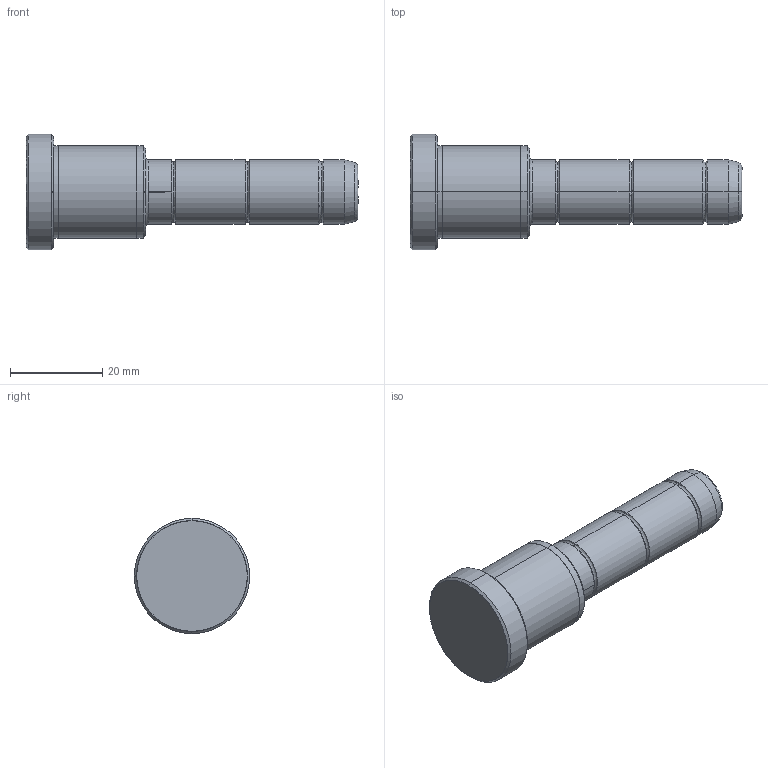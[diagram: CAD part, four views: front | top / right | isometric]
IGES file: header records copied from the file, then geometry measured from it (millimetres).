
Start section: SolidWorks IGES file using analytic representation for surfaces
Global section: file name: C:\Users\Dell\Desktop\deltakont\kontrol edilecekler\D02\Ø14\D02_14x26x46.IGS; native system: SolidWorks 2010; preprocessor: SolidWorks 2010; author: Dell; date: 111225.231723; units: millimetre
Bounding box: 72 x 25 x 25 mm (x, y, z)
Surface area: 4680.7 mm2 (no closed solid volume)
Topology: 0 solids, 0 shells, 48 faces, 499 edges, 499 vertices
Faces by surface type: revolution 26, bspline 22
